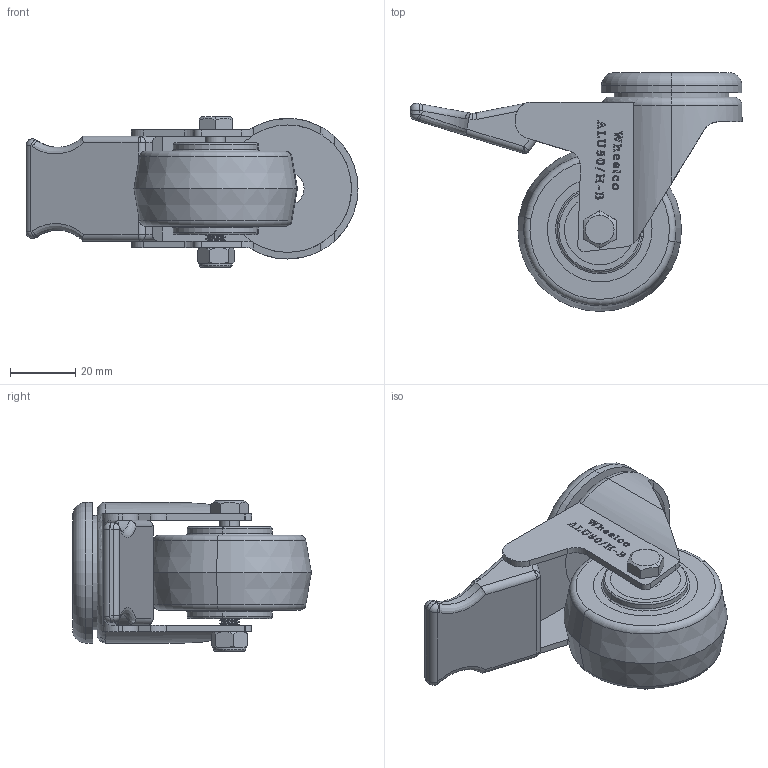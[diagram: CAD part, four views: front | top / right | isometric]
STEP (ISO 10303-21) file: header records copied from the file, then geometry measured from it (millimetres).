
FILE_DESCRIPTION (( 'STEP AP214' ), '1' );
FILE_NAME ('ALU50-H-B.step', '2024-01-18T00:20:50', ( '' ), ( '' ), 'SwSTEP 2.0', 'SolidWorks 2022', '' );
FILE_SCHEMA (( 'AUTOMOTIVE_DESIGN' ));
Length unit declared in the file: millimetre
Products named in the file (5): ALU50-H-B; M6x45; ALU50-H-B-10MM; M6NYLOC-WHITE; ALU 50MM WHEEL
Assembly tree (4 placements, depth 2):
  ALU50-H-B
    ALU50-H-B-10MM
    ALU 50MM WHEEL
    M6x45
    M6NYLOC-WHITE
Bounding box: 101.5 x 73 x 46 mm (x, y, z)
Volume: 74991.6 mm3; surface area: 26235.7 mm2
Topology: 4 solids, 4 shells, 521 faces, 1370 edges, 893 vertices
Faces by surface type: plane 260, bspline 106, cylinder 102, torus 25, cone 20, sphere 8
Entity records: 25176 total; most frequent: CARTESIAN_POINT 12282, ORIENTED_EDGE 2728, DIRECTION 2065, EDGE_CURVE 1364, VERTEX_POINT 889, VECTOR 801, LINE 801, AXIS2_PLACEMENT_3D 632
